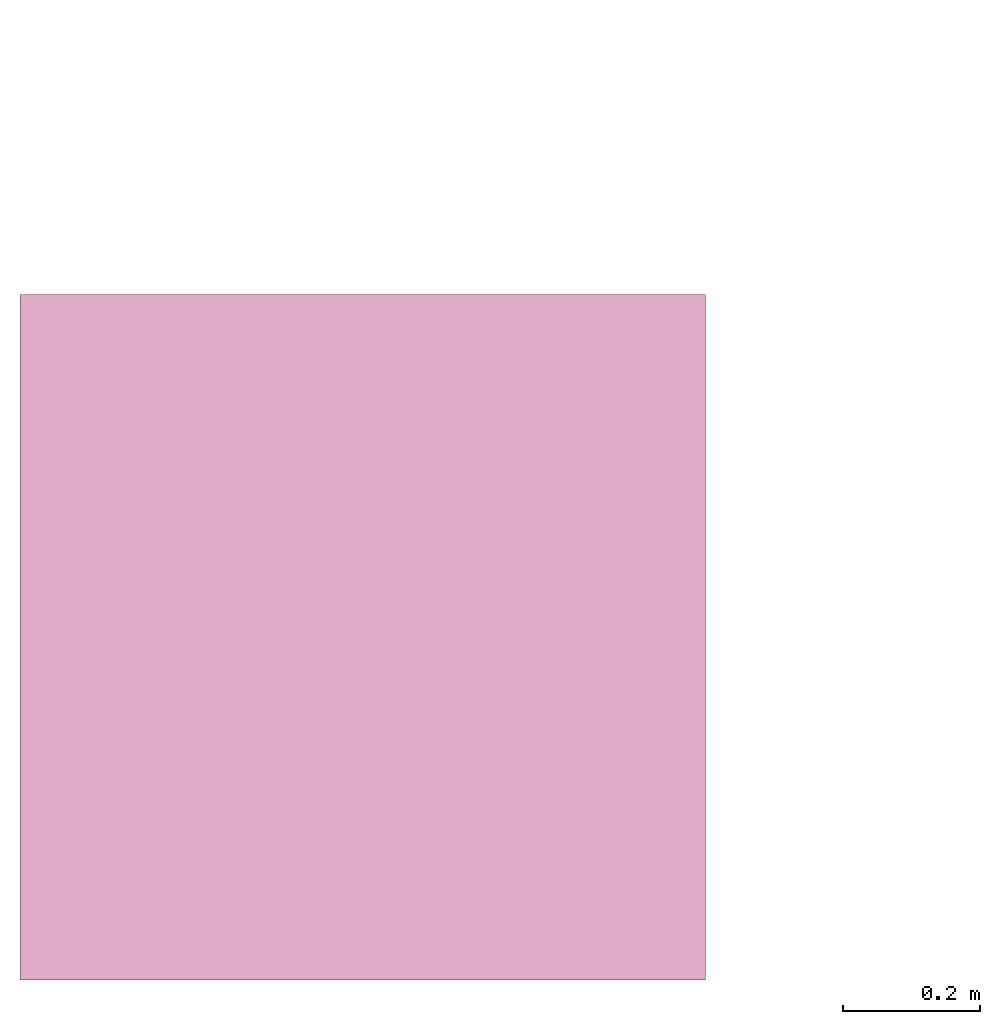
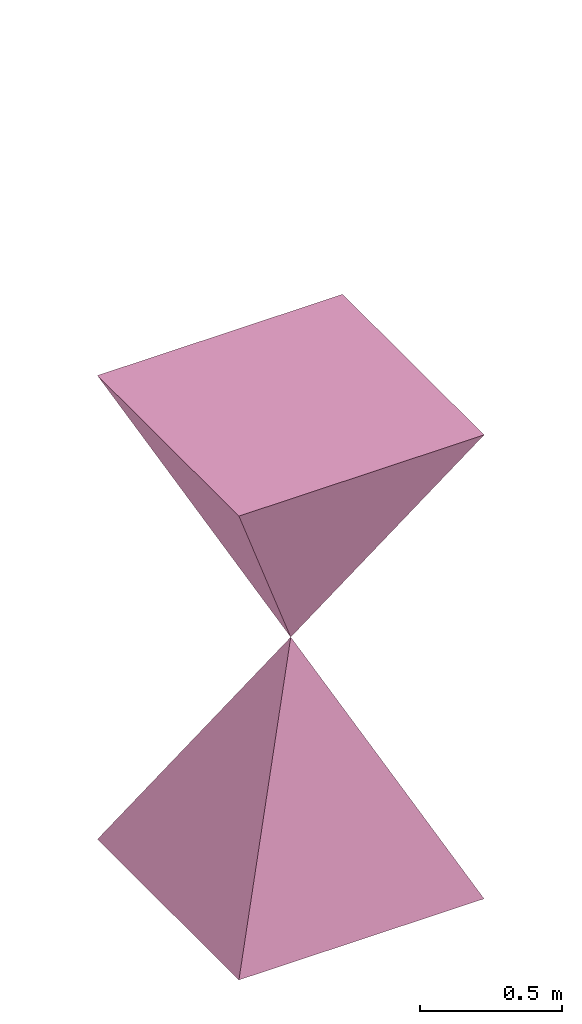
# One storey, part 3 of 32: 1 furnishing.
"""IFC2X3 building model written with IfcOpenShell, lengths in metres."""

import ifcopenshell
import ifcopenshell.guid

model = None  # the IFC model being written
_history = None  # IfcOwnerHistory: only IFC2X3 demands one
_inside = {}  # id of a spatial element -> (the spatial element, [elements in it])
_under = {}  # id of a project, library or spatial element -> (it, [spatial elements below it])
_declared = {}  # id of a project -> (the project, [libraries it declares])
_typed = {}  # id of a type object -> (the type object, [elements of that type])
_made_of = {}  # id of a material, layer set ... -> (it, [elements and type objects made of it])


def new_model(schema):
    """Start an empty IFC model of exactly this schema.

    Asked for "IFC4X3", IfcOpenShell would pick the latest addendum, in which some entities
    have other attributes; the version numbers below select the first issue.
    IFC2X3 requires an IfcOwnerHistory on every rooted entity: one is made here for all.
    """
    global model, _history
    if schema == "IFC4X3":
        model = ifcopenshell.file(schema_version=(4, 3, 0, 0))
    else:
        model = ifcopenshell.file(schema=schema)
    _inside.clear()
    _under.clear()
    _declared.clear()
    _typed.clear()
    _made_of.clear()
    _history = None
    if model.schema == "IFC2X3":
        org = make("IfcOrganization", Name="unknown")
        user = make(
            "IfcPersonAndOrganization",
            ThePerson=make("IfcPerson", FamilyName="unknown"),
            TheOrganization=org,
        )
        app = make(
            "IfcApplication",
            ApplicationDeveloper=org,
            Version="unknown",
            ApplicationFullName="unknown",
            ApplicationIdentifier="unknown",
        )
        _history = make(
            "IfcOwnerHistory",
            OwningUser=user,
            OwningApplication=app,
            ChangeAction="ADDED",
            CreationDate=0,
        )
    return model


def make(cls, **values):
    """One entity of the class cls with the attributes given. An attribute that is None is left unset."""
    return model.create_entity(
        cls, **{name: value for name, value in values.items() if value is not None}
    )


def entity(cls, *values):
    """Any entity or typed value of the class cls, its attributes in the order of the schema. None: left unset."""
    e = model.create_entity(cls)
    for i, value in enumerate(values):
        if value is not None:
            e[i] = value
    return e


def rooted(cls, **values):
    """An entity with a GlobalId (a new one), such as an element, a storey or a relation."""
    return make(cls, GlobalId=ifcopenshell.guid.new(), OwnerHistory=_history, **values)


def si_unit(unit_type, name, prefix=None):
    """IfcSIUnit, for example si_unit("LENGTHUNIT", "METRE", prefix="MILLI")."""
    return make("IfcSIUnit", UnitType=unit_type, Prefix=prefix, Name=name)


def converted_unit(unit_type, name, factor, base, dimensions=None, offset=None):
    """IfcConversionBasedUnit, such as the inch: factor (a typed value) times the base unit."""
    return make(
        "IfcConversionBasedUnit"
        if offset is None
        else "IfcConversionBasedUnitWithOffset",
        ConversionOffset=offset,
        Dimensions=None
        if dimensions is None
        else entity("IfcDimensionalExponents", *dimensions),
        UnitType=unit_type,
        Name=name,
        ConversionFactor=make(
            "IfcMeasureWithUnit", ValueComponent=factor, UnitComponent=base
        ),
    )


def derived_unit(unit_type, elements):
    """IfcDerivedUnit: a product of units, each with its exponent."""
    return make(
        "IfcDerivedUnit",
        Elements=[
            make("IfcDerivedUnitElement", Unit=unit, Exponent=power)
            for unit, power in elements
        ],
        UnitType=unit_type,
    )


def assignment(units):
    """IfcUnitAssignment: the units of a project."""
    return None if units is None else make("IfcUnitAssignment", Units=units)


def point(xyz):
    """IfcCartesianPoint."""
    return None if xyz is None else make("IfcCartesianPoint", Coordinates=xyz)


def direction(xyz):
    """IfcDirection."""
    return None if xyz is None else make("IfcDirection", DirectionRatios=xyz)


def frame(location, z_axis=None, x_axis=None):
    """IfcAxis2Placement3D, a coordinate frame: its origin and axes. An axis left out is left unset."""
    return make(
        "IfcAxis2Placement3D",
        Location=point(location),
        Axis=direction(z_axis),
        RefDirection=direction(x_axis),
    )


def origin():
    """The frame at (0, 0, 0) with its axes left unset."""
    return frame((0.0, 0.0, 0.0))


def place(relative_to, where):
    """IfcLocalPlacement: puts the frame where relative to a parent placement (None: the world)."""
    return make(
        "IfcLocalPlacement", PlacementRelTo=relative_to, RelativePlacement=where
    )


def context(
    kind, dimensions, precision=None, world=None, true_north=None, identifier=None
):
    """IfcGeometricRepresentationContext, for example the 3D "Model" context."""
    return make(
        "IfcGeometricRepresentationContext",
        ContextIdentifier=identifier,
        ContextType=kind,
        CoordinateSpaceDimension=dimensions,
        Precision=precision,
        WorldCoordinateSystem=world,
        TrueNorth=true_north,
    )


def subcontext(parent, identifier, kind, view, scale=None):
    """IfcGeometricRepresentationSubContext, for example "Body" below "Model"."""
    return make(
        "IfcGeometricRepresentationSubContext",
        ContextIdentifier=identifier,
        ContextType=kind,
        ParentContext=parent,
        TargetScale=scale,
        TargetView=view,
    )


def project(units=None, contexts=None):
    """IfcProject with its units and contexts."""
    return rooted(
        "IfcProject",
        Name="project",
        RepresentationContexts=contexts,
        UnitsInContext=assignment(units),
    )


def spatial(cls, under=None, at=None, **own):
    """A site, building, storey or space (cls), placed at a placement, below another one or the project."""
    s = rooted(cls, ObjectPlacement=at, **own)
    if under is not None:
        _under.setdefault(under.id(), (under, []))[1].append(s)
    return s


def faces_of(points, faces, orient=None, outer=None):
    """IfcFace entities. A face is a list of loops; a loop is a list of indices into points, from 0.

    orient and outer hold one flag for each loop. By default every Orientation is true, the
    first loop of a face is its IfcFaceOuterBound and the others are IfcFaceBound.
    """
    made = []
    for i, loops in enumerate(faces):
        bounds = []
        for j, loop in enumerate(loops):
            is_outer = j == 0 if outer is None else outer[i][j]
            bounds.append(
                make(
                    "IfcFaceOuterBound" if is_outer else "IfcFaceBound",
                    Bound=make("IfcPolyLoop", Polygon=[points[k] for k in loop]),
                    Orientation=True if orient is None else orient[i][j],
                )
            )
        made.append(make("IfcFace", Bounds=bounds))
    return made


def faceted_brep(points, faces, orient=None, outer=None, voids=None):
    """IfcFacetedBrep: a solid bounded by flat faces; with voids (closed shells), ...WithVoids."""
    shared = [point(p) for p in points]
    hull = make("IfcClosedShell", CfsFaces=faces_of(shared, faces, orient, outer))
    if voids is None:
        return make("IfcFacetedBrep", Outer=hull)
    return make(
        "IfcFacetedBrepWithVoids",
        Outer=hull,
        Voids=[
            make(cls, CfsFaces=faces_of(shared, fs, o, b)) for cls, fs, o, b in voids
        ],
    )


def shape(context_of_items, identifier, shape_type, items):
    """IfcShapeRepresentation: the items that make up one representation, for example the "Body"."""
    return make(
        "IfcShapeRepresentation",
        ContextOfItems=context_of_items,
        RepresentationIdentifier=identifier,
        RepresentationType=shape_type,
        Items=items,
    )


def source(mapping_origin, context_of_items, identifier, shape_type, items):
    """IfcRepresentationMap: a shape defined once, which mapped items show again and again."""
    return make(
        "IfcRepresentationMap",
        MappingOrigin=mapping_origin,
        MappedRepresentation=shape(context_of_items, identifier, shape_type, items),
    )


def transform(
    local_origin,
    x_axis=None,
    y_axis=None,
    z_axis=None,
    scale=None,
    scale2=None,
    scale3=None,
    uniform=True,
):
    """IfcCartesianTransformationOperator3D, or its non-uniform kind. x_axis, y_axis, z_axis: its Axis1, 2, 3."""
    if uniform:
        return make(
            "IfcCartesianTransformationOperator3D",
            Axis1=direction(x_axis),
            Axis2=direction(y_axis),
            LocalOrigin=point(local_origin),
            Scale=scale,
            Axis3=direction(z_axis),
        )
    return make(
        "IfcCartesianTransformationOperator3DnonUniform",
        Axis1=direction(x_axis),
        Axis2=direction(y_axis),
        LocalOrigin=point(local_origin),
        Scale=scale,
        Axis3=direction(z_axis),
        Scale2=scale2,
        Scale3=scale3,
    )


def mapped(mapping_source, mapping_target):
    """IfcMappedItem: shows the shape of a source again, moved by a transform."""
    return make(
        "IfcMappedItem", MappingSource=mapping_source, MappingTarget=mapping_target
    )


def material(Name=None, Category=None):
    """IfcMaterial."""
    return make("IfcMaterial", Name=Name, Category=Category)


def made_of(thing, what):
    """Note that an element or type object is made of a material, layer set ...; save() writes the relation."""
    if what is not None:
        _made_of.setdefault(what.id(), (what, []))[1].append(thing)
    return thing


def type_object(cls, material=None, **own):
    """A type object (cls), such as IfcWallType, which elements share."""
    return made_of(rooted(cls, **own), material)


def type_shapes(of_type, sources):
    """Give a type object the sources (RepresentationMaps) that its elements show as mapped items."""
    of_type.RepresentationMaps = sources


def element(
    cls,
    number,
    at=None,
    inside=None,
    cuts=None,
    type_object=None,
    material=None,
    context=None,
    identifier="Body",
    shape_type=None,
    held_by="IfcProductDefinitionShape",
    body=None,
    shapes=None,
    **own,
):
    """One element of the class cls, such as IfcWall. Its Tag is "e" and its number.

    at: its placement. inside: the storey or other place that contains it. cuts: it is an
    opening in that element (IfcRelVoidsElement). A single representation is given by context,
    identifier, shape_type and body (its items); several are given by shapes. held_by: the class
    of the entity that holds the representations. save() writes the other relations.
    """
    e = rooted(cls, Tag="e%d" % number, ObjectPlacement=at, **own)
    if body is not None:
        shapes = [shape(context, identifier, shape_type, body)]
    if shapes is not None:
        e.Representation = make(held_by, Representations=shapes)
    if inside is not None:
        _inside.setdefault(inside.id(), (inside, []))[1].append(e)
    if cuts is not None:
        rooted(
            "IfcRelVoidsElement", RelatingBuildingElement=cuts, RelatedOpeningElement=e
        )
    if type_object is not None:
        _typed.setdefault(type_object.id(), (type_object, []))[1].append(e)
    return made_of(e, material)


def aggregate(whole, parts):
    """IfcRelAggregates: a whole, such as a stair, and the parts it consists of."""
    return rooted("IfcRelAggregates", RelatingObject=whole, RelatedObjects=parts)


def save(model, path):
    """Write the relations noted so far, then the file.

    IfcRelAggregates (storeys below a building ...), IfcRelContainedInSpatialStructure (elements
    in a storey), IfcRelDefinesByType, IfcRelAssociatesMaterial and IfcRelDeclares: one each for
    every whole, place, type object, material and project.
    """
    for whole, parts in _under.values():
        aggregate(whole, parts)
    for where, things in _inside.values():
        rooted(
            "IfcRelContainedInSpatialStructure",
            RelatedElements=things,
            RelatingStructure=where,
        )
    for kind, things in _typed.values():
        rooted("IfcRelDefinesByType", RelatedObjects=things, RelatingType=kind)
    for what, things in _made_of.values():
        rooted("IfcRelAssociatesMaterial", RelatedObjects=things, RelatingMaterial=what)
    for by, libraries in _declared.values():
        rooted("IfcRelDeclares", RelatingContext=by, RelatedDefinitions=libraries)
    model.write(path)


model = new_model("IFC2X3")

# Units and contexts
model_context = context("Model", 3, precision=1e-05, world=origin(), true_north=direction((6.12303176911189e-17, 1.0)))
body_context = subcontext(model_context, "Body", "Model", "MODEL_VIEW")
ifc_project = project(units=[si_unit("LENGTHUNIT", "METRE"), si_unit("AREAUNIT", "SQUARE_METRE"), si_unit("VOLUMEUNIT", "CUBIC_METRE"), converted_unit("PLANEANGLEUNIT", "DEGREE", entity("IfcRatioMeasure", 0.0174532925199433), si_unit("PLANEANGLEUNIT", "RADIAN"), dimensions=[0, 0, 0, 0, 0, 0, 0]), si_unit("MASSUNIT", "GRAM", prefix="KILO"), derived_unit("MASSDENSITYUNIT", [(si_unit("MASSUNIT", "GRAM", prefix="KILO"), 1), (si_unit("LENGTHUNIT", "METRE"), -3)]), derived_unit("MOMENTOFINERTIAUNIT", [(si_unit("LENGTHUNIT", "METRE"), 4)]), si_unit("TIMEUNIT", "SECOND"), si_unit("FREQUENCYUNIT", "HERTZ"), si_unit("THERMODYNAMICTEMPERATUREUNIT", "DEGREE_CELSIUS"), derived_unit("THERMALTRANSMITTANCEUNIT", [(si_unit("MASSUNIT", "GRAM", prefix="KILO"), 1), (si_unit("THERMODYNAMICTEMPERATUREUNIT", "KELVIN"), -1), (si_unit("TIMEUNIT", "SECOND"), -3)]), derived_unit("VOLUMETRICFLOWRATEUNIT", [(si_unit("LENGTHUNIT", "METRE"), 3), (si_unit("TIMEUNIT", "SECOND"), -1)]), si_unit("ELECTRICCURRENTUNIT", "AMPERE"), si_unit("ELECTRICVOLTAGEUNIT", "VOLT"), si_unit("POWERUNIT", "WATT"), si_unit("FORCEUNIT", "NEWTON", prefix="KILO"), si_unit("ILLUMINANCEUNIT", "LUX"), si_unit("LUMINOUSFLUXUNIT", "LUMEN"), si_unit("LUMINOUSINTENSITYUNIT", "CANDELA"), derived_unit("USERDEFINED", [(si_unit("MASSUNIT", "GRAM", prefix="KILO"), -1), (si_unit("LENGTHUNIT", "METRE"), -2), (si_unit("TIMEUNIT", "SECOND"), 3), (si_unit("LUMINOUSFLUXUNIT", "LUMEN"), 1)]), derived_unit("LINEARVELOCITYUNIT", [(si_unit("LENGTHUNIT", "METRE"), 1), (si_unit("TIMEUNIT", "SECOND"), -1)]), si_unit("PRESSUREUNIT", "PASCAL"), derived_unit("USERDEFINED", [(si_unit("LENGTHUNIT", "METRE"), -2), (si_unit("MASSUNIT", "GRAM", prefix="KILO"), 1), (si_unit("TIMEUNIT", "SECOND"), -2)]), derived_unit("LINEARFORCEUNIT", [(si_unit("MASSUNIT", "GRAM", prefix="KILO"), 1), (si_unit("LENGTHUNIT", "METRE"), 1), (si_unit("TIMEUNIT", "SECOND"), -2), (si_unit("LENGTHUNIT", "METRE"), -1)]), derived_unit("PLANARFORCEUNIT", [(si_unit("MASSUNIT", "GRAM", prefix="KILO"), 1), (si_unit("LENGTHUNIT", "METRE"), 1), (si_unit("TIMEUNIT", "SECOND"), -2), (si_unit("LENGTHUNIT", "METRE"), -2)])], contexts=[model_context])

# Site, building, storey
site_placement = place(None, origin())
site = spatial("IfcSite", under=ifc_project, at=site_placement, Name="Default", CompositionType="ELEMENT")
building_placement = place(site_placement, origin())
building = spatial("IfcBuilding", under=site, at=building_placement, CompositionType="ELEMENT")
storey_placement = place(building_placement, origin())
storey = spatial("IfcBuildingStorey", under=building, at=storey_placement, Name="00 EG", CompositionType="ELEMENT", Elevation=0.0)

# Furnishing
ifc_material = material(Name="Drehknopf Blau")
furniture_type = type_object("IfcFurnitureType", Name="dh_Einfügepunkt:dh_Einfügepunkt", material=ifc_material)
shared_shape = source(origin(), body_context, "Body", "Brep", [
    faceted_brep([(0.0, 0.0, 0.0), (0.499999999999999, -0.499999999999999, -1.0), (0.499999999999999, 0.499999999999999, -1.0), (-0.499999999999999, 0.499999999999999, -1.0), (-0.499999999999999, -0.499999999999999, -1.0)], [[[0, 1, 2]], [[0, 2, 3]], [[0, 3, 4]], [[1, 4, 3, 2]], [[0, 4, 1]]]),
    faceted_brep([(0.499999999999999, -0.499999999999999, 1.0), (0.0, 0.0, 0.0), (0.499999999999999, 0.499999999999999, 1.0), (-0.499999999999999, 0.499999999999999, 1.0), (-0.499999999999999, -0.499999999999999, 1.0)], [[[0, 1, 2]], [[2, 1, 3]], [[3, 1, 4]], [[2, 3, 4, 0]], [[4, 1, 0]]]),
])
type_shapes(furniture_type, [shared_shape])
furnishing_placement = place(storey_placement, origin())
element("IfcFurnishingElement", 1, at=furnishing_placement, inside=storey, type_object=furniture_type, material=ifc_material, Name="dh_Einfügepunkt:dh_Einfügepunkt", ObjectType="dh_Einfügepunkt:dh_Einfügepunkt", context=body_context, shape_type="MappedRepresentation", body=[
    mapped(shared_shape, transform((0.0, 0.0, 0.0), scale=1.0)),
])

save(model, "model.ifc")
